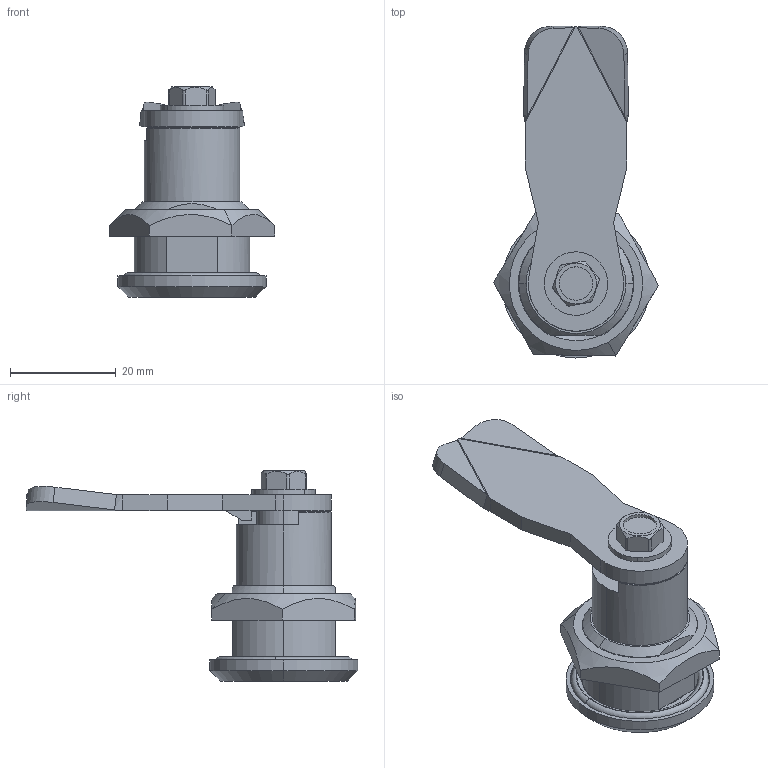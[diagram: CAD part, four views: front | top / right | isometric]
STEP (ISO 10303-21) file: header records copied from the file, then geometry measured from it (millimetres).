
FILE_DESCRIPTION (( 'STEP AP214' ), '1' );
FILE_NAME ('2.ZZR28..STEP', '2010-02-17T18:19:54', ( '£ukaszC' ), ( '' ), 'SwSTEP 2.0', 'SolidWorks 2008', '' );
FILE_SCHEMA (( 'AUTOMOTIVE_DESIGN' ));
Length unit declared in the file: millimetre
Products named in the file (8): ORNIG-2x22_Domyœlna; Jêzyk_Domyœlna; 2.ZZR28.02.01.00_Domyœlna; 2.ZZR28.01.01.00_Domyœlna; 2.ZZR28.; ORNIG-2,4x11,3_Domyœlna; Œruba M6-10_Domyœlna; Nakrêtka M22x1,5_Domyœlna
Assembly tree (7 placements, depth 2):
  2.ZZR28.
    ORNIG-2,4x11,3_Domyœlna
    2.ZZR28.01.01.00_Domyœlna
    2.ZZR28.02.01.00_Domyœlna
    Jêzyk_Domyœlna
    Œruba M6-10_Domyœlna
    ORNIG-2x22_Domyœlna
    Nakrêtka M22x1,5_Domyœlna
Bounding box: 31.17 x 62.66 x 39.7 mm (x, y, z)
Volume: 14278.3 mm3; surface area: 12159.3 mm2
Topology: 8 solids, 8 shells, 220 faces, 519 edges, 322 vertices
Faces by surface type: plane 88, cylinder 69, cone 39, torus 20, bspline 4
Entity records: 6878 total; most frequent: CARTESIAN_POINT 1397, DIRECTION 1129, ORIENTED_EDGE 1030, EDGE_CURVE 515, AXIS2_PLACEMENT_3D 446, VERTEX_POINT 322, EDGE_LOOP 245, VECTOR 237
